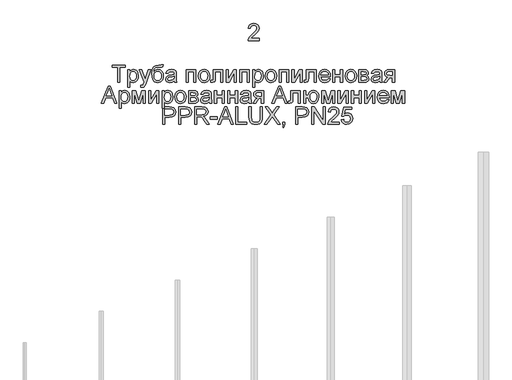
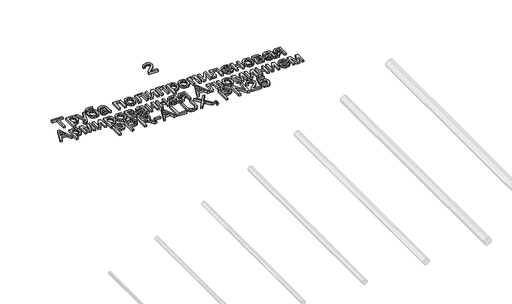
# One storey, part 2 of 2: 1 proxy.
"""IFC4 building model written with IfcOpenShell, lengths in millimetres."""

from ifc_helpers import new_model, si_unit, origin, origin_with_axes, place, context, project, spatial, polyline, outline, extrude, element, save

model = new_model("IFC4")

# Units and contexts
model_context = context("Model", 3, world=origin())
ifc_project = project(units=[si_unit("LENGTHUNIT", "METRE", prefix="MILLI")], contexts=[model_context])

# Site, building, storey
site = spatial("IfcSite", under=ifc_project)
building = spatial("IfcBuilding", under=site)
storey = spatial("IfcBuildingStorey", under=building, Name="Этаж 01", Elevation=0.0)

# Proxy
placement = place(None, origin())
element("IfcBuildingElementProxy", 1, Name="-", ObjectType="-", at=placement, inside=storey, context=model_context, shape_type="SweptSolid", body=[
    extrude(outline(polyline([(2739.4727171, 3996.7624846), (2739.4727171, 3977.9269265), (2640.5860368, 3977.9269265), (2642.6093878, 3990.9131609), (2654.0505178, 4010.9075473), (2677.6317537, 4032.7413438), (2710.1525221, 4064.1216779), (2716.2501662, 4074.9374086), (2718.2827142, 4085.4588337), (2716.3651293, 4094.8904083), (2710.6123746, 4102.7308933), (2701.7694111, 4108.0145985), (2690.5811999, 4109.7758336), (2678.8319687, 4108.0559852), (2669.7038967, 4102.8964402), (2663.8131863, 4094.7018688), (2661.7760397, 4083.8769411), (2642.9404816, 4086.2313859), (2647.5068168, 4104.4507417), (2657.3798499, 4117.7588728), (2672.0445459, 4125.898262), (2690.9858701, 4128.6113917), (2710.0651501, 4125.5947593), (2724.702255, 4116.5448623), (2734.014268, 4103.0251989), (2737.1182723, 4086.5992679), (2733.7705462, 4068.738597), (2722.6421158, 4050.2709208), (2695.6579715, 4024.4639989), (2673.989722, 4006.3458106), (2665.4916479, 3996.7624846), (2739.4727171, 3996.7624846)])), origin_with_axes(), (0.0, 0.0, 1.0), 20.0),
    extrude(outline(polyline([(1501.0347685, 3612.0024729), (1501.0347685, 3743.85138), (1451.5914284, 3743.85138), (1451.5914284, 3762.6869382), (1569.3136668, 3762.6869382), (1569.3136668, 3743.85138), (1519.8703267, 3743.85138), (1519.8703267, 3612.0024729), (1501.0347685, 3612.0024729)])), origin_with_axes(), (0.0, 0.0, 1.0), 20.0),
    extrude(outline(polyline([(1588.149225, 3569.6224671), (1588.149225, 3722.6613771), (1606.9847831, 3722.6613771), (1606.9847831, 3704.1937009), (1620.0078058, 3719.8102916), (1637.5925651, 3725.0158219), (1650.3304792, 3723.194806), (1661.4681066, 3717.7317584), (1670.5363978, 3708.9577728), (1677.0663032, 3697.203943), (1682.3270158, 3668.1780536), (1680.8416922, 3652.0694207), (1676.3857215, 3637.6622421), (1669.101658, 3625.6876832), (1659.132056, 3616.8769094), (1647.5207805, 3611.4552485), (1635.3116968, 3609.6480282), (1618.9225539, 3614.4856764), (1606.9847831, 3626.7177528), (1606.9847831, 3569.6224671), (1588.149225, 3569.6224671)]), holes=[polyline([(1606.9847831, 3666.4490082), (1609.0219297, 3649.5632247), (1615.1333693, 3637.7542126), (1624.1510767, 3630.8012429), (1634.9070266, 3628.4835863), (1645.8377204, 3630.8840163), (1655.085354, 3638.0853064), (1661.3899317, 3650.3265798), (1663.4914576, 3667.8469598), (1661.4405155, 3684.6407729), (1655.2876891, 3696.6153318), (1646.2837773, 3703.7890307), (1635.6795788, 3706.1802637), (1625.0339935, 3703.6372794), (1615.6851923, 3696.0083265), (1609.1598854, 3683.5325284), (1606.9847831, 3666.4490082)])]), origin_with_axes(), (0.0, 0.0, 1.0), 20.0),
    extrude(outline(polyline([(1703.5170187, 3569.6224671), (1701.1625739, 3587.7590495), (1710.7275058, 3586.1035805), (1719.6670383, 3588.1821138), (1725.14848, 3593.9762552), (1730.2988279, 3607.8454064), (1731.7703559, 3612.4071431), (1691.7447948, 3722.6613771), (1711.6104226, 3722.6613771), (1732.8372137, 3661.2250839), (1740.2316418, 3636.6505666), (1747.6260699, 3658.3556043), (1769.4414722, 3722.6613771), (1789.1599472, 3722.6613771), (1750.6427023, 3609.3537226), (1740.636312, 3584.7792053), (1729.7102167, 3571.4986653), (1715.0317251, 3567.2680223), (1703.5170187, 3569.6224671)])), origin_with_axes(), (0.0, 0.0, 1.0), 20.0),
    extrude(outline(polyline([(1882.4548211, 3765.0413829), (1898.9359345, 3765.0413829), (1894.0798922, 3750.3444972), (1884.4781721, 3745.0286024), (1861.411971, 3743.85138), (1830.3443365, 3739.5103725), (1823.2166229, 3733.8633838), (1818.4249599, 3725.6044331), (1814.396652, 3700.9931276), (1830.7122185, 3719.0193453), (1840.6312368, 3723.5167027), (1851.7366745, 3725.0158219), (1871.3355878, 3721.2036447), (1887.2372871, 3709.7671132), (1897.7771062, 3691.8282674), (1901.2903793, 3668.5091474), (1899.5475383, 3650.5289149), (1894.3190155, 3636.0987436), (1877.7827198, 3616.5458156), (1866.4887425, 3611.372475), (1851.7366745, 3609.6480282), (1834.7359278, 3611.8691157), (1821.9934152, 3618.5323784), (1812.6170229, 3628.6583303), (1805.7146369, 3641.2674857), (1801.4655999, 3660.2547951), (1800.0492542, 3689.5152093), (1803.6223081, 3725.6550168), (1814.3414697, 3747.6957469), (1832.4734536, 3758.9391403), (1858.2849741, 3762.6869382), (1879.2542478, 3763.1100025), (1882.4548211, 3765.0413829)]), holes=[polyline([(1882.4548211, 3669.0977586), (1880.4130761, 3683.9188045), (1874.2878408, 3695.7875973), (1864.4469975, 3703.5820971), (1851.2584279, 3706.1802637), (1837.5088384, 3703.4349443), (1827.3093101, 3695.1989862), (1820.9909368, 3682.3737001), (1818.8848124, 3665.860397), (1821.211666, 3649.8529317), (1828.1922268, 3638.1037005), (1838.5848932, 3630.8886149), (1851.1480633, 3628.4835863), (1863.7756128, 3631.2656939), (1873.772806, 3639.6120167), (1880.2843174, 3652.5476673), (1882.4548211, 3669.0977586)])]), origin_with_axes(), (0.0, 0.0, 1.0), 20.0),
    extrude(outline(polyline([(1995.4681701, 3626.1291416), (1977.202829, 3613.3636363), (1957.0245016, 3609.6480282), (1941.2837507, 3611.8829113), (1929.6724752, 3618.5875607), (1922.5125719, 3628.7686949), (1920.1259374, 3641.4330326), (1923.731181, 3656.3322534), (1933.2041424, 3667.147984), (1946.3927119, 3673.3284015), (1962.6898843, 3676.1610929), (1995.3578055, 3682.635816), (1995.4681701, 3686.8296708), (1994.171386, 3695.2357744), (1990.2810339, 3700.7356102), (1981.5806247, 3704.8191003), (1969.458913, 3706.1802637), (1950.4026256, 3702.5566261), (1941.3159404, 3689.6991503), (1922.4803822, 3692.0535951), (1930.6289684, 3710.4476949), (1947.0365054, 3721.2266373), (1971.8869342, 3725.0158219), (1994.714012, 3721.6680957), (2007.6082759, 3713.2619921), (2013.3840232, 3700.4780928), (2014.3037282, 3683.9969794), (2014.3037282, 3660.5628963), (2015.2602214, 3627.8397928), (2019.0126177, 3612.0024729), (2000.1770596, 3612.0024729), (1995.4681701, 3626.1291416)]), holes=[polyline([(1995.4681701, 3663.8002579), (1965.0811173, 3658.0245105), (1948.8759154, 3654.97109), (1941.5366696, 3650.004683), (1938.9614956, 3642.7574077), (1944.571696, 3632.5670765), (1961.0344153, 3628.4835863), (1980.0907027, 3632.9901408), (1992.3779613, 3643.8978419), (1995.3578055, 3658.4659689), (1995.4681701, 3663.8002579)])]), origin_with_axes(), (0.0, 0.0, 1.0), 20.0),
    extrude(outline(polyline([(2099.0637399, 3722.6613771), (2183.8237516, 3722.6613771), (2183.8237516, 3612.0024729), (2164.9881934, 3612.0024729), (2164.9881934, 3703.8258189), (2117.899298, 3703.8258189), (2117.899298, 3612.0024729), (2099.0637399, 3612.0024729), (2099.0637399, 3722.6613771)])), origin_with_axes(), (0.0, 0.0, 1.0), 20.0),
    extrude(outline(polyline([(2207.3681993, 3667.331925), (2211.4424924, 3694.0125667), (2223.6653717, 3712.7653514), (2238.7669276, 3721.9532043), (2256.8483276, 3725.0158219), (2276.6357804, 3721.2864181), (2292.4409107, 3710.098207), (2302.8013873, 3692.3341051), (2306.2548796, 3668.8770294), (2304.7281693, 3649.8483332), (2300.1480385, 3635.3629796), (2292.6478443, 3624.5150593), (2282.360944, 3616.3986628), (2270.1426632, 3611.3356868), (2256.8483276, 3609.6480282), (2236.8217515, 3613.3636363), (2221.0350154, 3624.5104608), (2210.7849033, 3642.6470431), (2207.3681993, 3667.331925)]), holes=[polyline([(2226.2037574, 3667.3687132), (2228.3834583, 3650.3219813), (2234.9225607, 3638.1772769), (2244.7634041, 3630.907009), (2256.8483276, 3628.4835863), (2268.8780689, 3630.9208045), (2278.7005181, 3638.2324592), (2285.2396206, 3650.5381119), (2287.4193214, 3667.9573244), (2285.225825, 3684.5074157), (2278.6453358, 3696.4865731), (2268.809091, 3703.7568411), (2256.8483276, 3706.1802637), (2244.7634041, 3703.7660381), (2234.9225607, 3696.5233613), (2228.3834583, 3684.4062481), (2226.2037574, 3667.3687132)])]), origin_with_axes(), (0.0, 0.0, 1.0), 20.0),
    extrude(outline(polyline([(2336.8626616, 3722.6613771), (2421.6226733, 3722.6613771), (2421.6226733, 3612.1128375), (2402.7871151, 3612.1128375), (2402.7871151, 3703.8258189), (2355.6982197, 3703.8258189), (2355.6982197, 3651.0347526), (2354.4290268, 3626.6809646), (2347.457663, 3616.3986628), (2330.9765497, 3612.0024729), (2315.6726587, 3612.9589661), (2315.6726587, 3630.8380311), (2324.0971563, 3630.8380311), (2332.6136245, 3631.9968594), (2336.016533, 3635.6756793), (2336.8626616, 3652.1016104), (2336.8626616, 3722.6613771)])), origin_with_axes(), (0.0, 0.0, 1.0), 20.0),
    extrude(outline(polyline([(2449.8760105, 3722.6613771), (2468.7115686, 3722.6613771), (2468.7115686, 3638.2692474), (2514.9911236, 3722.6613771), (2539.3449117, 3722.6613771), (2539.3449117, 3612.0024729), (2520.5093536, 3612.0024729), (2520.5093536, 3695.8795678), (2474.5241042, 3612.0024729), (2449.8760105, 3612.0024729), (2449.8760105, 3722.6613771)])), origin_with_axes(), (0.0, 0.0, 1.0), 20.0),
    extrude(outline(polyline([(2567.598249, 3722.6613771), (2652.3582606, 3722.6613771), (2652.3582606, 3612.0024729), (2633.5227025, 3612.0024729), (2633.5227025, 3703.8258189), (2586.4338071, 3703.8258189), (2586.4338071, 3612.0024729), (2567.598249, 3612.0024729), (2567.598249, 3722.6613771)])), origin_with_axes(), (0.0, 0.0, 1.0), 20.0),
    extrude(outline(polyline([(2680.6115979, 3569.6224671), (2680.6115979, 3722.6613771), (2699.447156, 3722.6613771), (2699.447156, 3704.1937009), (2712.4701787, 3719.8102916), (2730.054938, 3725.0158219), (2742.7928521, 3723.194806), (2753.9304795, 3717.7317584), (2762.9987707, 3708.9577728), (2769.5286761, 3697.203943), (2774.7893886, 3668.1780536), (2773.3040651, 3652.0694207), (2768.8480944, 3637.6622421), (2761.5640309, 3625.6876832), (2751.5944288, 3616.8769094), (2739.9831534, 3611.4552485), (2727.7740697, 3609.6480282), (2711.3849268, 3614.4856764), (2699.447156, 3626.7177528), (2699.447156, 3569.6224671), (2680.6115979, 3569.6224671)]), holes=[polyline([(2699.447156, 3666.4490082), (2701.4843026, 3649.5632247), (2707.5957422, 3637.7542126), (2716.6134496, 3630.8012429), (2727.3693995, 3628.4835863), (2738.3000932, 3630.8840163), (2747.5477269, 3638.0853064), (2753.8523046, 3650.3265798), (2755.9538305, 3667.8469598), (2753.9028884, 3684.6407729), (2747.750062, 3696.6153318), (2738.7461502, 3703.7890307), (2728.1419516, 3706.1802637), (2717.4963664, 3703.6372794), (2708.1475652, 3696.0083265), (2701.6222583, 3683.5325284), (2699.447156, 3666.4490082)])]), origin_with_axes(), (0.0, 0.0, 1.0), 20.0),
    extrude(outline(polyline([(2791.270502, 3667.331925), (2795.3447951, 3694.0125667), (2807.5676744, 3712.7653514), (2822.6692303, 3721.9532043), (2840.7506304, 3725.0158219), (2860.5380832, 3721.2864181), (2876.3432134, 3710.098207), (2886.7036901, 3692.3341051), (2890.1571823, 3668.8770294), (2888.630472, 3649.8483332), (2884.0503412, 3635.3629796), (2876.550147, 3624.5150593), (2866.2632467, 3616.3986628), (2854.044966, 3611.3356868), (2840.7506304, 3609.6480282), (2820.7240543, 3613.3636363), (2804.9373181, 3624.5104608), (2794.6872061, 3642.6470431), (2791.270502, 3667.331925)]), holes=[polyline([(2810.1060602, 3667.3687132), (2812.285761, 3650.3219813), (2818.8248635, 3638.1772769), (2828.6657068, 3630.907009), (2840.7506304, 3628.4835863), (2852.7803716, 3630.9208045), (2862.6028209, 3638.2324592), (2869.1419233, 3650.5381119), (2871.3216242, 3667.9573244), (2869.1281278, 3684.5074157), (2862.5476386, 3696.4865731), (2852.7113937, 3703.7568411), (2840.7506304, 3706.1802637), (2828.6657068, 3703.7660381), (2818.8248635, 3696.5233613), (2812.285761, 3684.4062481), (2810.1060602, 3667.3687132)])]), origin_with_axes(), (0.0, 0.0, 1.0), 20.0),
    extrude(outline(polyline([(2911.3471852, 3722.6613771), (2996.1071969, 3722.6613771), (2996.1071969, 3612.0024729), (2977.2716388, 3612.0024729), (2977.2716388, 3703.8258189), (2930.1827434, 3703.8258189), (2930.1827434, 3612.0024729), (2911.3471852, 3612.0024729), (2911.3471852, 3722.6613771)])), origin_with_axes(), (0.0, 0.0, 1.0), 20.0),
    extrude(outline(polyline([(3024.3605342, 3722.6613771), (3043.1960923, 3722.6613771), (3043.1960923, 3638.2692474), (3089.4756473, 3722.6613771), (3113.8294354, 3722.6613771), (3113.8294354, 3612.0024729), (3094.9938772, 3612.0024729), (3094.9938772, 3695.8795678), (3049.0086278, 3612.0024729), (3024.3605342, 3612.0024729), (3024.3605342, 3722.6613771)])), origin_with_axes(), (0.0, 0.0, 1.0), 20.0),
    extrude(outline(polyline([(3151.5005517, 3722.6613771), (3236.2605634, 3722.6613771), (3236.2605634, 3612.1128375), (3217.4250052, 3612.1128375), (3217.4250052, 3703.8258189), (3170.3361099, 3703.8258189), (3170.3361099, 3651.0347526), (3169.066917, 3626.6809646), (3162.0955532, 3616.3986628), (3145.6144398, 3612.0024729), (3130.3105488, 3612.9589661), (3130.3105488, 3630.8380311), (3138.7350465, 3630.8380311), (3147.2515147, 3631.9968594), (3150.6544231, 3635.6756793), (3151.5005517, 3652.1016104), (3151.5005517, 3722.6613771)])), origin_with_axes(), (0.0, 0.0, 1.0), 20.0),
    extrude(outline(polyline([(3341.9898488, 3644.9646997), (3360.457525, 3642.6102549), (3353.8034594, 3628.6951185), (3343.1854653, 3618.2932551), (3328.842666, 3611.8093349), (3311.0141848, 3609.6480282), (3288.9136739, 3613.3774319), (3271.9083287, 3624.5656431), (3261.0650069, 3642.4860948), (3257.4505663, 3666.41222), (3261.1017951, 3691.1430872), (3272.0554815, 3709.6383545), (3288.8309005, 3721.171455), (3309.947327, 3725.0158219), (3330.4061645, 3721.1806521), (3346.7539206, 3709.6751427), (3357.4730823, 3691.2166636), (3361.0461362, 3666.5225846), (3360.9357716, 3661.4458131), (3276.2861245, 3661.4458131), (3279.5464786, 3647.3467356), (3287.1202492, 3636.9816604), (3298.050943, 3630.6081049), (3311.3820668, 3628.4835863), (3329.849743, 3632.4199237), (3341.9898488, 3644.9646997)]), holes=[polyline([(3276.2861245, 3680.2813712), (3342.210578, 3680.2813712), (3339.6629952, 3690.2325792), (3334.6689971, 3697.3510958), (3323.6877195, 3703.9729717), (3309.8737506, 3706.1802637), (3297.1772233, 3704.4190287), (3286.6787908, 3699.1353235), (3279.3809317, 3690.8993653), (3276.2861245, 3680.2813712)])]), origin_with_axes(), (0.0, 0.0, 1.0), 20.0),
    extrude(outline(polyline([(3379.8816943, 3722.6613771), (3398.7172525, 3722.6613771), (3398.7172525, 3680.2813712), (3448.1605926, 3680.2813712), (3448.1605926, 3722.6613771), (3466.9961508, 3722.6613771), (3466.9961508, 3612.0024729), (3448.1605926, 3612.0024729), (3448.1605926, 3661.4458131), (3398.7172525, 3661.4458131), (3398.7172525, 3612.0024729), (3379.8816943, 3612.0024729), (3379.8816943, 3722.6613771)])), origin_with_axes(), (0.0, 0.0, 1.0), 20.0),
    extrude(outline(polyline([(3490.5405985, 3667.331925), (3494.6148915, 3694.0125667), (3506.8377708, 3712.7653514), (3521.9393267, 3721.9532043), (3540.0207268, 3725.0158219), (3559.8081796, 3721.2864181), (3575.6133098, 3710.098207), (3585.9737865, 3692.3341051), (3589.4272788, 3668.8770294), (3587.9005685, 3649.8483332), (3583.3204376, 3635.3629796), (3575.8202435, 3624.5150593), (3565.5333432, 3616.3986628), (3553.3150624, 3611.3356868), (3540.0207268, 3609.6480282), (3519.9941507, 3613.3636363), (3504.2074146, 3624.5104608), (3493.9573025, 3642.6470431), (3490.5405985, 3667.331925)]), holes=[polyline([(3509.3761566, 3667.3687132), (3511.5558574, 3650.3219813), (3518.0949599, 3638.1772769), (3527.9358033, 3630.907009), (3540.0207268, 3628.4835863), (3552.050468, 3630.9208045), (3561.8729173, 3638.2324592), (3568.4120198, 3650.5381119), (3570.5917206, 3667.9573244), (3568.3982242, 3684.5074157), (3561.817735, 3696.4865731), (3551.9814902, 3703.7568411), (3540.0207268, 3706.1802637), (3527.9358033, 3703.7660381), (3518.0949599, 3696.5233613), (3511.5558574, 3684.4062481), (3509.3761566, 3667.3687132)])]), origin_with_axes(), (0.0, 0.0, 1.0), 20.0),
    extrude(outline(polyline([(3610.6172817, 3722.6613771), (3652.1143707, 3722.6613771), (3674.8678721, 3720.1413854), (3687.6701656, 3710.9075473), (3693.0228486, 3694.8127101), (3689.785487, 3681.7345051), (3680.0366142, 3672.4086966), (3692.6917548, 3662.1999712), (3697.7317381, 3644.4496649), (3694.5403618, 3630.0930701), (3686.9527957, 3619.9855122), (3674.9414485, 3613.9982328), (3658.4787293, 3612.0024729), (3610.6172817, 3612.0024729), (3610.6172817, 3722.6613771)]), holes=[polyline([(3629.4528398, 3680.2813712), (3648.0676688, 3680.2813712), (3663.4267421, 3681.2378644), (3670.8947466, 3685.0638372), (3674.1872904, 3691.9800187), (3672.7433536, 3697.5994162), (3668.4115431, 3701.2138568), (3648.65628, 3703.8258189), (3629.4528398, 3703.8258189), (3629.4528398, 3680.2813712)]), polyline([(3629.4528398, 3630.8380311), (3652.5558291, 3630.8380311), (3673.0468563, 3634.2409396), (3677.2866963, 3638.8808512), (3678.89618, 3645.9947693), (3675.6772125, 3655.0630605), (3667.289503, 3660.3421671), (3650.7164192, 3661.4458131), (3629.4528398, 3661.4458131), (3629.4528398, 3630.8380311)])]), origin_with_axes(), (0.0, 0.0, 1.0), 20.0),
    extrude(outline(polyline([(3791.9095289, 3626.1291416), (3773.6441878, 3613.3636363), (3753.4658604, 3609.6480282), (3737.7251095, 3611.8829113), (3726.1138341, 3618.5875607), (3718.9539307, 3628.7686949), (3716.5672963, 3641.4330326), (3720.1725398, 3656.3322534), (3729.6455012, 3667.147984), (3742.8340707, 3673.3284015), (3759.1312431, 3676.1610929), (3791.7991643, 3682.635816), (3791.9095289, 3686.8296708), (3790.6127449, 3695.2357744), (3786.7223928, 3700.7356102), (3778.0219836, 3704.8191003), (3765.9002718, 3706.1802637), (3746.8439845, 3702.5566261), (3737.7572992, 3689.6991503), (3718.9217411, 3692.0535951), (3727.0703273, 3710.4476949), (3743.4778642, 3721.2266373), (3768.328293, 3725.0158219), (3791.1553708, 3721.6680957), (3804.0496347, 3713.2619921), (3809.8253821, 3700.4780928), (3810.7450871, 3683.9969794), (3810.7450871, 3660.5628963), (3811.7015802, 3627.8397928), (3815.4539766, 3612.0024729), (3796.6184184, 3612.0024729), (3791.9095289, 3626.1291416)]), holes=[polyline([(3791.9095289, 3663.8002579), (3761.5224761, 3658.0245105), (3745.3172742, 3654.97109), (3737.9780284, 3650.004683), (3735.4028544, 3642.7574077), (3741.0130549, 3632.5670765), (3757.4757742, 3628.4835863), (3776.5320615, 3632.9901408), (3788.8193201, 3643.8978419), (3791.7991643, 3658.4659689), (3791.9095289, 3663.8002579)])]), origin_with_axes(), (0.0, 0.0, 1.0), 20.0),
    extrude(outline(polyline([(3921.4039912, 3722.6613771), (3921.4039912, 3612.0024729), (3902.5684331, 3612.0024729), (3902.5684331, 3654.3824788), (3892.3045254, 3654.3824788), (3878.3250096, 3651.9912458), (3865.1916223, 3635.9148026), (3850.1820369, 3612.0024729), (3828.4034228, 3612.0024729), (3847.3125574, 3642.2423729), (3855.6634787, 3653.0948918), (3863.3522124, 3657.9141459), (3850.4763425, 3661.8596803), (3841.4264455, 3669.355276), (3836.0737624, 3679.3248781), (3834.2895347, 3690.6924317), (3836.726753, 3703.5866956), (3844.0384076, 3713.795421), (3855.9669813, 3720.4448881), (3872.2549566, 3722.6613771), (3921.4039912, 3722.6613771)]), holes=[polyline([(3902.5684331, 3703.8258189), (3877.7363984, 3703.8258189), (3864.9111123, 3702.7359685), (3857.6316473, 3699.4664173), (3853.1250929, 3689.2576919), (3854.7851604, 3682.0793945), (3859.7653629, 3677.099192), (3883.2914165, 3673.2180369), (3902.5684331, 3673.2180369), (3902.5684331, 3703.8258189)])]), origin_with_axes(), (0.0, 0.0, 1.0), 20.0),
    extrude(outline(polyline([(1358.7012246, 3429.0402462), (1418.8499308, 3579.7247114), (1434.8895858, 3579.7247114), (1495.038292, 3429.0402462), (1475.1358761, 3429.0402462), (1457.8822105, 3476.1291416), (1395.8205179, 3476.1291416), (1378.6036405, 3429.0402462), (1358.7012246, 3429.0402462)]), holes=[polyline([(1402.7366994, 3494.9646997), (1451.0028172, 3494.9646997), (1437.4279716, 3532.0104166), (1426.8697583, 3560.8891532), (1417.4887674, 3535.2477782), (1402.7366994, 3494.9646997)])]), origin_with_axes(), (0.0, 0.0, 1.0), 20.0),
    extrude(outline(polyline([(1512.8069924, 3386.6602403), (1512.8069924, 3539.6991503), (1531.6425505, 3539.6991503), (1531.6425505, 3521.2314742), (1544.6655732, 3536.8480649), (1562.2503325, 3542.0535951), (1574.9882466, 3540.2325792), (1586.125874, 3534.7695316), (1595.1941652, 3525.995546), (1601.7240706, 3514.2417163), (1606.9847831, 3485.2158268), (1605.4994596, 3469.107194), (1601.0434889, 3454.7000153), (1593.7594254, 3442.7254564), (1583.7898234, 3433.9146826), (1572.1785479, 3428.4930217), (1559.9694642, 3426.6858014), (1543.5803213, 3431.5234496), (1531.6425505, 3443.755526), (1531.6425505, 3386.6602403), (1512.8069924, 3386.6602403)]), holes=[polyline([(1531.6425505, 3483.4867815), (1533.6796971, 3466.6009979), (1539.7911367, 3454.7919858), (1548.8088441, 3447.8390161), (1559.564794, 3445.5213596), (1570.4954878, 3447.9217896), (1579.7431214, 3455.1230796), (1586.0476991, 3467.364353), (1588.149225, 3484.884733), (1586.0982829, 3501.6785461), (1579.9454565, 3513.6531051), (1570.9415447, 3520.826804), (1560.3373462, 3523.2180369), (1549.6917609, 3520.6750526), (1540.3429597, 3513.0460998), (1533.8176528, 3500.5703016), (1531.6425505, 3483.4867815)])]), origin_with_axes(), (0.0, 0.0, 1.0), 20.0),
    extrude(outline(polyline([(1628.1747861, 3539.6991503), (1660.5851898, 3539.6991503), (1685.5643773, 3451.1131659), (1712.4933394, 3539.6991503), (1743.5425798, 3539.6991503), (1743.5425798, 3429.0402462), (1724.7070216, 3429.0402462), (1724.7070216, 3518.1412654), (1697.6309068, 3429.0402462), (1672.9092367, 3429.0402462), (1647.0103442, 3522.4086966), (1647.0103442, 3429.0402462), (1628.1747861, 3429.0402462), (1628.1747861, 3539.6991503)])), origin_with_axes(), (0.0, 0.0, 1.0), 20.0),
    extrude(outline(polyline([(1771.795917, 3539.6991503), (1790.6314751, 3539.6991503), (1790.6314751, 3455.3070206), (1836.9110301, 3539.6991503), (1861.2648182, 3539.6991503), (1861.2648182, 3429.0402462), (1842.4292601, 3429.0402462), (1842.4292601, 3512.9173411), (1796.4440107, 3429.0402462), (1771.795917, 3429.0402462), (1771.795917, 3539.6991503)])), origin_with_axes(), (0.0, 0.0, 1.0), 20.0),
    extrude(outline(polyline([(1889.5181554, 3386.6602403), (1889.5181554, 3539.6991503), (1908.3537136, 3539.6991503), (1908.3537136, 3521.2314742), (1921.3767362, 3536.8480649), (1938.9614956, 3542.0535951), (1951.6994097, 3540.2325792), (1962.8370371, 3534.7695316), (1971.9053283, 3525.995546), (1978.4352337, 3514.2417163), (1983.6959462, 3485.2158268), (1982.2106227, 3469.107194), (1977.754652, 3454.7000153), (1970.4705885, 3442.7254564), (1960.5009864, 3433.9146826), (1948.8897109, 3428.4930217), (1936.6806272, 3426.6858014), (1920.2914843, 3431.5234496), (1908.3537136, 3443.755526), (1908.3537136, 3386.6602403), (1889.5181554, 3386.6602403)]), holes=[polyline([(1908.3537136, 3483.4867815), (1910.3908601, 3466.6009979), (1916.5022998, 3454.7919858), (1925.5200072, 3447.8390161), (1936.275957, 3445.5213596), (1947.2066508, 3447.9217896), (1956.4542845, 3455.1230796), (1962.7588622, 3467.364353), (1964.8603881, 3484.884733), (1962.8094459, 3501.6785461), (1956.6566196, 3513.6531051), (1947.6527077, 3520.826804), (1937.0485092, 3523.2180369), (1926.402924, 3520.6750526), (1917.0541228, 3513.0460998), (1910.5288159, 3500.5703016), (1908.3537136, 3483.4867815)])]), origin_with_axes(), (0.0, 0.0, 1.0), 20.0),
    extrude(outline(polyline([(2000.1770596, 3484.3696983), (2004.2513527, 3511.05034), (2016.474232, 3529.8031247), (2031.5757879, 3538.9909775), (2049.6571879, 3542.0535951), (2069.4446408, 3538.3241914), (2085.249771, 3527.1359802), (2095.6102477, 3509.3718783), (2099.0637399, 3485.9148026), (2097.5370296, 3466.8861064), (2092.9568988, 3452.4007529), (2085.4567046, 3441.5528325), (2075.1698043, 3433.436436), (2062.9515235, 3428.3734601), (2049.6571879, 3426.6858014), (2029.6306118, 3430.4014096), (2013.8438757, 3441.548234), (2003.5937636, 3459.6848164), (2000.1770596, 3484.3696983)]), holes=[polyline([(2019.0126177, 3484.4064865), (2021.1923186, 3467.3597545), (2027.731421, 3455.2150501), (2037.5722644, 3447.9447822), (2049.6571879, 3445.5213596), (2061.6869292, 3447.9585778), (2071.5093785, 3455.2702324), (2078.0484809, 3467.5758852), (2080.2281817, 3484.9950976), (2078.0346853, 3501.5451889), (2071.4541962, 3513.5243464), (2061.6179513, 3520.7946143), (2049.6571879, 3523.2180369), (2037.5722644, 3520.8038113), (2027.731421, 3513.5611346), (2021.1923186, 3501.4440214), (2019.0126177, 3484.4064865)])]), origin_with_axes(), (0.0, 0.0, 1.0), 20.0),
    extrude(outline(polyline([(2120.2537428, 3539.6991503), (2161.7508319, 3539.6991503), (2184.5043333, 3537.1791587), (2197.3066267, 3527.9453206), (2202.6593097, 3511.8504833), (2199.4219482, 3498.7722784), (2189.6730753, 3489.4464698), (2202.3282159, 3479.2377444), (2207.3681993, 3461.4874382), (2204.176823, 3447.1308433), (2196.5892568, 3437.0232855), (2184.5779097, 3431.036006), (2168.1151904, 3429.0402462), (2120.2537428, 3429.0402462), (2120.2537428, 3539.6991503)]), holes=[polyline([(2139.089301, 3497.3191445), (2157.7041299, 3497.3191445), (2173.0632032, 3498.2756377), (2180.5312077, 3502.1016104), (2183.8237516, 3509.0177919), (2182.3798148, 3514.6371894), (2178.0480043, 3518.25163), (2158.2927411, 3520.8635922), (2139.089301, 3520.8635922), (2139.089301, 3497.3191445)]), polyline([(2139.089301, 3447.8758043), (2162.1922903, 3447.8758043), (2182.6833174, 3451.2787128), (2186.9231574, 3455.9186244), (2188.5326411, 3463.0325425), (2185.3136737, 3472.1008337), (2176.9259642, 3477.3799403), (2160.3528803, 3478.4835863), (2139.089301, 3478.4835863), (2139.089301, 3447.8758043)])]), origin_with_axes(), (0.0, 0.0, 1.0), 20.0),
    extrude(outline(polyline([(2301.54599, 3443.1669148), (2283.280649, 3430.4014096), (2263.1023215, 3426.6858014), (2247.3615707, 3428.9206845), (2235.7502952, 3435.6253339), (2228.5903919, 3445.8064681), (2226.2037574, 3458.4708058), (2229.809001, 3473.3700266), (2239.2819624, 3484.1857573), (2252.4705319, 3490.3661748), (2268.7677043, 3493.1988661), (2301.4356254, 3499.6735893), (2301.54599, 3503.867444), (2300.249206, 3512.2735476), (2296.3588539, 3517.7733834), (2287.6584447, 3521.8568736), (2275.536733, 3523.2180369), (2256.4804456, 3519.5943993), (2247.3937604, 3506.7369236), (2228.5582022, 3509.0913683), (2236.7067884, 3527.4854681), (2253.1143254, 3538.2644105), (2277.9647542, 3542.0535951), (2300.791832, 3538.7058689), (2313.6860959, 3530.2997653), (2319.4618432, 3517.515866), (2320.3815482, 3501.0347526), (2320.3815482, 3477.6006695), (2321.3380414, 3444.8775661), (2325.0904377, 3429.0402462), (2306.2548796, 3429.0402462), (2301.54599, 3443.1669148)]), holes=[polyline([(2301.54599, 3480.8380311), (2271.1589372, 3475.0622838), (2254.9537354, 3472.0088632), (2247.6144895, 3467.0424563), (2245.0393156, 3459.795181), (2250.649516, 3449.6048497), (2267.1122353, 3445.5213596), (2286.1685226, 3450.027914), (2298.4557813, 3460.9356152), (2301.4356254, 3475.5037422), (2301.54599, 3480.8380311)])]), origin_with_axes(), (0.0, 0.0, 1.0), 20.0),
    extrude(outline(polyline([(2346.2804407, 3539.6991503), (2365.1159988, 3539.6991503), (2365.1159988, 3497.3191445), (2414.559339, 3497.3191445), (2414.559339, 3539.6991503), (2433.3948971, 3539.6991503), (2433.3948971, 3429.0402462), (2414.559339, 3429.0402462), (2414.559339, 3478.4835863), (2365.1159988, 3478.4835863), (2365.1159988, 3429.0402462), (2346.2804407, 3429.0402462), (2346.2804407, 3539.6991503)])), origin_with_axes(), (0.0, 0.0, 1.0), 20.0),
    extrude(outline(polyline([(2461.6482343, 3539.6991503), (2480.4837925, 3539.6991503), (2480.4837925, 3497.3191445), (2529.9271326, 3497.3191445), (2529.9271326, 3539.6991503), (2548.7626908, 3539.6991503), (2548.7626908, 3429.0402462), (2529.9271326, 3429.0402462), (2529.9271326, 3478.4835863), (2480.4837925, 3478.4835863), (2480.4837925, 3429.0402462), (2461.6482343, 3429.0402462), (2461.6482343, 3539.6991503)])), origin_with_axes(), (0.0, 0.0, 1.0), 20.0),
    extrude(outline(polyline([(2647.6493711, 3443.1669148), (2629.38403, 3430.4014096), (2609.2057026, 3426.6858014), (2593.4649517, 3428.9206845), (2581.8536763, 3435.6253339), (2574.6937729, 3445.8064681), (2572.3071385, 3458.4708058), (2575.912382, 3473.3700266), (2585.3853434, 3484.1857573), (2598.5739129, 3490.3661748), (2614.8710853, 3493.1988661), (2647.5390065, 3499.6735893), (2647.6493711, 3503.867444), (2646.3525871, 3512.2735476), (2642.462235, 3517.7733834), (2633.7618258, 3521.8568736), (2621.640114, 3523.2180369), (2602.5838267, 3519.5943993), (2593.4971414, 3506.7369236), (2574.6615833, 3509.0913683), (2582.8101695, 3527.4854681), (2599.2177064, 3538.2644105), (2624.0681352, 3542.0535951), (2646.895213, 3538.7058689), (2659.7894769, 3530.2997653), (2665.5652243, 3517.515866), (2666.4849293, 3501.0347526), (2666.4849293, 3477.6006695), (2667.4414224, 3444.8775661), (2671.1938188, 3429.0402462), (2652.3582606, 3429.0402462), (2647.6493711, 3443.1669148)]), holes=[polyline([(2647.6493711, 3480.8380311), (2617.2623183, 3475.0622838), (2601.0571164, 3472.0088632), (2593.7178706, 3467.0424563), (2591.1426966, 3459.795181), (2596.7528971, 3449.6048497), (2613.2156164, 3445.5213596), (2632.2719037, 3450.027914), (2644.5591623, 3460.9356152), (2647.5390065, 3475.5037422), (2647.6493711, 3480.8380311)])]), origin_with_axes(), (0.0, 0.0, 1.0), 20.0),
    extrude(outline(polyline([(2777.1438334, 3539.6991503), (2777.1438334, 3429.0402462), (2758.3082753, 3429.0402462), (2758.3082753, 3471.420252), (2748.0443676, 3471.420252), (2734.0648518, 3469.0290191), (2720.9314645, 3452.9525759), (2705.9218791, 3429.0402462), (2684.143265, 3429.0402462), (2703.0523996, 3459.2801462), (2711.4033209, 3470.132665), (2719.0920546, 3474.9519192), (2706.2161847, 3478.8974536), (2697.1662877, 3486.3930492), (2691.8136046, 3496.3626513), (2690.0293769, 3507.7302049), (2692.4665952, 3520.6244689), (2699.7782498, 3530.8331942), (2711.7068235, 3537.4826613), (2727.9947989, 3539.6991503), (2777.1438334, 3539.6991503)]), holes=[polyline([(2758.3082753, 3520.8635922), (2733.4762406, 3520.8635922), (2720.6509545, 3519.7737418), (2713.3714895, 3516.5041905), (2708.8649351, 3506.2954652), (2710.5250026, 3499.1171677), (2715.5052051, 3494.1369652), (2739.0312587, 3490.2558102), (2758.3082753, 3490.2558102), (2758.3082753, 3520.8635922)])]), origin_with_axes(), (0.0, 0.0, 1.0), 20.0),
    extrude(outline(polyline([(2849.0647635, 3429.0402462), (2909.2134697, 3579.7247114), (2925.2531247, 3579.7247114), (2985.4018309, 3429.0402462), (2965.4994149, 3429.0402462), (2948.2457494, 3476.1291416), (2886.1840568, 3476.1291416), (2868.9671794, 3429.0402462), (2849.0647635, 3429.0402462)]), holes=[polyline([(2893.1002383, 3494.9646997), (2941.3663561, 3494.9646997), (2927.7915104, 3532.0104166), (2917.2332972, 3560.8891532), (2907.8523063, 3535.2477782), (2893.1002383, 3494.9646997)])]), origin_with_axes(), (0.0, 0.0, 1.0), 20.0),
    extrude(outline(polyline([(3012.5883103, 3539.6991503), (3097.348322, 3539.6991503), (3097.348322, 3429.1506108), (3078.5127639, 3429.1506108), (3078.5127639, 3520.8635922), (3031.4238685, 3520.8635922), (3031.4238685, 3468.0725259), (3030.1546756, 3443.7187378), (3023.1833118, 3433.436436), (3006.7021984, 3429.0402462), (2991.3983074, 3429.9967394), (2991.3983074, 3447.8758043), (2999.8228051, 3447.8758043), (3008.3392733, 3449.0346326), (3011.7421817, 3452.7134526), (3012.5883103, 3469.1393837), (3012.5883103, 3539.6991503)])), origin_with_axes(), (0.0, 0.0, 1.0), 20.0),
    extrude(outline(polyline([(3125.6016592, 3539.6991503), (3144.4372174, 3539.6991503), (3144.4372174, 3497.3191445), (3165.6272203, 3497.3191445), (3170.5154523, 3516.5225846), (3180.2505296, 3530.5756768), (3194.2162499, 3539.1841155), (3211.7964107, 3542.0535951), (3226.5714713, 3540.3659364), (3237.8608501, 3535.3029605), (3253.6061995, 3516.7065256), (3258.2553082, 3502.8005862), (3259.8050111, 3484.7743684), (3256.5998392, 3459.6480282), (3246.9843235, 3441.4378694), (3231.8781691, 3430.3738184), (3212.2010809, 3426.6858014), (3193.8115797, 3430.1438922), (3179.4779774, 3440.5181644), (3169.8624618, 3456.9257014), (3165.6272203, 3478.4835863), (3144.4372174, 3478.4835863), (3144.4372174, 3429.0402462), (3125.6016592, 3429.0402462), (3125.6016592, 3539.6991503)]), holes=[polyline([(3213.0104213, 3523.2180369), (3201.0036727, 3520.7808187), (3191.9859653, 3513.4691641), (3186.3435752, 3501.7613196), (3184.4627785, 3486.1355318), (3186.3573707, 3467.9299716), (3192.0411476, 3455.3254147), (3200.8979066, 3447.9723734), (3212.3114455, 3445.5213596), (3223.7571741, 3447.7884324), (3232.9312313, 3454.5896507), (3238.9598975, 3466.4400495), (3240.9694529, 3483.8546635), (3239.2312105, 3501.0761394), (3234.0164832, 3513.3771936), (3225.2884829, 3520.7578261), (3213.0104213, 3523.2180369)])]), origin_with_axes(), (0.0, 0.0, 1.0), 20.0),
    extrude(outline(polyline([(3283.3494588, 3539.6991503), (3315.7598625, 3539.6991503), (3340.73905, 3451.1131659), (3367.6680121, 3539.6991503), (3398.7172525, 3539.6991503), (3398.7172525, 3429.0402462), (3379.8816943, 3429.0402462), (3379.8816943, 3518.1412654), (3352.8055795, 3429.0402462), (3328.0839094, 3429.0402462), (3302.1850169, 3522.4086966), (3302.1850169, 3429.0402462), (3283.3494588, 3429.0402462), (3283.3494588, 3539.6991503)])), origin_with_axes(), (0.0, 0.0, 1.0), 20.0),
    extrude(outline(polyline([(3426.9705897, 3539.6991503), (3445.8061478, 3539.6991503), (3445.8061478, 3455.3070206), (3492.0857028, 3539.6991503), (3516.4394909, 3539.6991503), (3516.4394909, 3429.0402462), (3497.6039328, 3429.0402462), (3497.6039328, 3512.9173411), (3451.6186834, 3429.0402462), (3426.9705897, 3429.0402462), (3426.9705897, 3539.6991503)])), origin_with_axes(), (0.0, 0.0, 1.0), 20.0),
    extrude(outline(polyline([(3544.6928281, 3539.6991503), (3563.5283863, 3539.6991503), (3563.5283863, 3497.3191445), (3612.9717264, 3497.3191445), (3612.9717264, 3539.6991503), (3631.8072846, 3539.6991503), (3631.8072846, 3429.0402462), (3612.9717264, 3429.0402462), (3612.9717264, 3478.4835863), (3563.5283863, 3478.4835863), (3563.5283863, 3429.0402462), (3544.6928281, 3429.0402462), (3544.6928281, 3539.6991503)])), origin_with_axes(), (0.0, 0.0, 1.0), 20.0),
    extrude(outline(polyline([(3660.0606218, 3539.6991503), (3678.89618, 3539.6991503), (3678.89618, 3455.3070206), (3725.175735, 3539.6991503), (3749.5295231, 3539.6991503), (3749.5295231, 3429.0402462), (3730.6939649, 3429.0402462), (3730.6939649, 3512.9173411), (3684.7087155, 3429.0402462), (3660.0606218, 3429.0402462), (3660.0606218, 3539.6991503)])), origin_with_axes(), (0.0, 0.0, 1.0), 20.0),
    extrude(outline(polyline([(3855.2588085, 3462.0024729), (3873.7264846, 3459.6480282), (3867.072419, 3445.7328917), (3856.454425, 3435.3310283), (3842.1116257, 3428.8471081), (3824.2831445, 3426.6858014), (3802.1826336, 3430.4152051), (3785.1772884, 3441.6034163), (3774.3339666, 3459.523868), (3770.719526, 3483.4499933), (3774.3707548, 3508.1808604), (3785.3244412, 3526.6761277), (3802.0998602, 3538.2092282), (3823.2162867, 3542.0535951), (3843.6751241, 3538.2184253), (3860.0228803, 3526.7129159), (3870.7420419, 3508.2544368), (3874.3150958, 3483.5603579), (3874.2047312, 3478.4835863), (3789.5550841, 3478.4835863), (3792.8154383, 3464.3845089), (3800.3892089, 3454.0194336), (3811.3199027, 3447.6458781), (3824.6510265, 3445.5213596), (3843.1187026, 3449.4576969), (3855.2588085, 3462.0024729)]), holes=[polyline([(3789.5550841, 3497.3191445), (3855.4795377, 3497.3191445), (3852.9319549, 3507.2703525), (3847.9379568, 3514.3888691), (3836.9566792, 3521.010745), (3823.1427103, 3523.2180369), (3810.4461829, 3521.4568019), (3799.9477505, 3516.1730967), (3792.6498914, 3507.9371386), (3789.5550841, 3497.3191445)])]), origin_with_axes(), (0.0, 0.0, 1.0), 20.0),
    extrude(outline(polyline([(3893.150654, 3539.6991503), (3925.5610577, 3539.6991503), (3950.5402452, 3451.1131659), (3977.4692073, 3539.6991503), (4008.5184477, 3539.6991503), (4008.5184477, 3429.0402462), (3989.6828895, 3429.0402462), (3989.6828895, 3518.1412654), (3962.6067747, 3429.0402462), (3937.8851046, 3429.0402462), (3911.9862121, 3522.4086966), (3911.9862121, 3429.0402462), (3893.150654, 3429.0402462), (3893.150654, 3539.6991503)])), origin_with_axes(), (0.0, 0.0, 1.0), 20.0),
    extrude(outline(polyline([(1895.4042674, 3246.0780194), (1895.4042674, 3396.7624846), (1951.2487542, 3396.7624846), (1973.7631323, 3395.3277449), (1992.0652616, 3388.2828046), (2003.9294559, 3373.7146776), (2008.4176163, 3353.1684682), (2005.3871883, 3335.4089649), (1996.2959045, 3320.6109116), (1979.2951578, 3310.6229155), (1952.5363412, 3307.2935834), (1914.2398255, 3307.2935834), (1914.2398255, 3246.0780194), (1895.4042674, 3246.0780194)]), holes=[polyline([(1914.2398255, 3326.1291416), (1953.6399872, 3326.1291416), (1970.3418298, 3327.8581869), (1981.3782896, 3333.0453231), (1987.531116, 3341.3686532), (1989.5820581, 3352.5062806), (1984.7444099, 3368.1044772), (1972.034087, 3376.6393395), (1953.1985288, 3377.9269265), (1914.2398255, 3377.9269265), (1914.2398255, 3326.1291416)])]), origin_with_axes(), (0.0, 0.0, 1.0), 20.0),
    extrude(outline(polyline([(2034.3165087, 3246.0780194), (2034.3165087, 3396.7624846), (2090.1609956, 3396.7624846), (2112.6753737, 3395.3277449), (2130.977503, 3388.2828046), (2142.8416973, 3373.7146776), (2147.3298577, 3353.1684682), (2144.2994297, 3335.4089649), (2135.2081459, 3320.6109116), (2118.2073992, 3310.6229155), (2091.4485826, 3307.2935834), (2053.1520669, 3307.2935834), (2053.1520669, 3246.0780194), (2034.3165087, 3246.0780194)]), holes=[polyline([(2053.1520669, 3326.1291416), (2092.5522286, 3326.1291416), (2109.2540712, 3327.8581869), (2120.290531, 3333.0453231), (2126.4433574, 3341.3686532), (2128.4942995, 3352.5062806), (2123.6566513, 3368.1044772), (2110.9463283, 3376.6393395), (2092.1107702, 3377.9269265), (2053.1520669, 3377.9269265), (2053.1520669, 3326.1291416)])]), origin_with_axes(), (0.0, 0.0, 1.0), 20.0),
    extrude(outline(polyline([(2173.2287501, 3246.0780194), (2173.2287501, 3396.7624846), (2238.1599223, 3396.7624846), (2268.3078518, 3392.6973886), (2277.5876751, 3387.0687941), (2284.7889652, 3378.3132026), (2289.4104827, 3367.4560852), (2290.9509886, 3355.522913), (2288.3988072, 3340.6788745), (2280.7422632, 3328.3732217), (2267.7514303, 3319.3509158), (2249.1963821, 3314.3569177), (2259.9017482, 3306.300302), (2275.168851, 3286.9129209), (2300.2951913, 3246.0780194), (2278.4062125, 3246.0780194), (2258.7981022, 3277.3112008), (2244.6346454, 3297.9861689), (2234.6834374, 3307.7534359), (2225.7255108, 3311.3402854), (2214.7994156, 3312.0024729), (2192.0643083, 3312.0024729), (2192.0643083, 3246.0780194), (2173.2287501, 3246.0780194)]), holes=[polyline([(2192.0643083, 3330.8380311), (2234.2235849, 3330.8380311), (2255.7262875, 3333.5051756), (2267.9399698, 3342.0400379), (2272.1154304, 3354.8239372), (2270.1242691, 3364.01179), (2264.1507852, 3371.4154152), (2253.873082, 3376.2990487), (2238.9692627, 3377.9269265), (2192.0643083, 3377.9269265), (2192.0643083, 3330.8380311)])]), origin_with_axes(), (0.0, 0.0, 1.0), 20.0),
    extrude(outline(polyline([(2312.1409915, 3290.81247), (2312.1409915, 3309.6480282), (2371.0021107, 3309.6480282), (2371.0021107, 3290.81247), (2312.1409915, 3290.81247)])), origin_with_axes(), (0.0, 0.0, 1.0), 20.0),
    extrude(outline(polyline([(2376.9985873, 3246.0780194), (2437.1472935, 3396.7624846), (2453.1869485, 3396.7624846), (2513.3356547, 3246.0780194), (2493.4332387, 3246.0780194), (2476.1795732, 3293.1669148), (2414.1178806, 3293.1669148), (2396.9010032, 3246.0780194), (2376.9985873, 3246.0780194)]), holes=[polyline([(2421.0340621, 3312.0024729), (2469.3001798, 3312.0024729), (2455.7253342, 3349.0481899), (2445.167121, 3377.9269265), (2435.7861301, 3352.2855514), (2421.0340621, 3312.0024729)])]), origin_with_axes(), (0.0, 0.0, 1.0), 20.0),
    extrude(outline(polyline([(2533.4587998, 3246.0780194), (2533.4587998, 3396.7624846), (2552.294358, 3396.7624846), (2552.294358, 3264.9135776), (2627.6365906, 3264.9135776), (2627.6365906, 3246.0780194), (2533.4587998, 3246.0780194)])), origin_with_axes(), (0.0, 0.0, 1.0), 20.0),
    extrude(outline(polyline([(2747.7132738, 3396.7624846), (2766.5488319, 3396.7624846), (2766.5488319, 3309.8319692), (2765.270442, 3289.4742993), (2761.4352722, 3273.7979277), (2754.2707704, 3261.7038072), (2743.0043843, 3252.09289), (2727.6085228, 3245.8159035), (2708.0555947, 3243.7235746), (2688.9303295, 3245.5445905), (2673.6402341, 3251.0076381), (2662.1807099, 3259.924178), (2654.5471585, 3272.1056706), (2650.2567347, 3288.4442297), (2648.8265935, 3309.8319692), (2648.8265935, 3396.7624846), (2667.6621516, 3396.7624846), (2667.6621516, 3310.4941568), (2671.3777598, 3281.780967), (2676.4269402, 3273.6185853), (2684.143265, 3267.5623279), (2706.2897611, 3262.5591328), (2725.447216, 3265.0331392), (2738.1851301, 3272.4551585), (2745.3312379, 3286.9129209), (2747.7132738, 3310.4941568), (2747.7132738, 3396.7624846)])), origin_with_axes(), (0.0, 0.0, 1.0), 20.0),
    extrude(outline(polyline([(2783.0299453, 3246.0780194), (2841.1185124, 3328.1892807), (2792.4477244, 3396.7624846), (2815.0356789, 3396.7624846), (2842.4428875, 3358.1716633), (2851.6767256, 3343.1252897), (2862.4924563, 3358.4291807), (2889.6053593, 3396.7624846), (2912.5244076, 3396.7624846), (2863.8536197, 3327.9685515), (2921.9421867, 3246.0780194), (2899.3542322, 3246.0780194), (2860.6530463, 3300.6717075), (2852.5964306, 3312.0024729), (2843.7304745, 3299.5680615), (2805.9489936, 3246.0780194), (2783.0299453, 3246.0780194)])), origin_with_axes(), (0.0, 0.0, 1.0), 20.0),
    extrude(outline(polyline([(2943.1321896, 3246.0780194), (2943.1321896, 3264.9135776), (2961.9677478, 3264.9135776), (2961.9677478, 3246.0780194), (2958.5832334, 3226.819397), (2947.8410792, 3215.4702374), (2943.1321896, 3222.5335717), (2950.0483711, 3230.6637638), (2952.5131805, 3246.0780194), (2943.1321896, 3246.0780194)])), origin_with_axes(), (0.0, 0.0, 1.0), 20.0),
    extrude(outline(polyline([(3058.4999833, 3246.0780194), (3058.4999833, 3396.7624846), (3114.3444702, 3396.7624846), (3136.8588483, 3395.3277449), (3155.1609775, 3388.2828046), (3167.0251719, 3373.7146776), (3171.5133322, 3353.1684682), (3168.4829043, 3335.4089649), (3159.3916205, 3320.6109116), (3142.3908738, 3310.6229155), (3115.6320572, 3307.2935834), (3077.3355415, 3307.2935834), (3077.3355415, 3246.0780194), (3058.4999833, 3246.0780194)]), holes=[polyline([(3077.3355415, 3326.1291416), (3116.7357032, 3326.1291416), (3133.4375457, 3327.8581869), (3144.4740056, 3333.0453231), (3150.626832, 3341.3686532), (3152.6777741, 3352.5062806), (3147.8401258, 3368.1044772), (3135.1298029, 3376.6393395), (3116.2942448, 3377.9269265), (3077.3355415, 3377.9269265), (3077.3355415, 3326.1291416)])]), origin_with_axes(), (0.0, 0.0, 1.0), 20.0),
    extrude(outline(polyline([(3197.4122247, 3246.0780194), (3197.4122247, 3396.7624846), (3217.572158, 3396.7624846), (3296.298905, 3277.3847772), (3296.298905, 3396.7624846), (3315.1344632, 3396.7624846), (3315.1344632, 3246.0780194), (3294.9745298, 3246.0780194), (3216.2477828, 3365.492515), (3216.2477828, 3246.0780194), (3197.4122247, 3246.0780194)])), origin_with_axes(), (0.0, 0.0, 1.0), 20.0),
    extrude(outline(polyline([(3437.5655911, 3264.9135776), (3437.5655911, 3246.0780194), (3338.6789108, 3246.0780194), (3340.7022618, 3259.0642538), (3352.1433919, 3279.0586403), (3375.7246278, 3300.8924367), (3408.2453961, 3332.2727709), (3414.3430402, 3343.0885015), (3416.3755882, 3353.6099266), (3414.4580033, 3363.0415013), (3408.7052486, 3370.8819863), (3399.8622852, 3376.1656914), (3388.674074, 3377.9269265), (3376.9248428, 3376.2070782), (3367.7967708, 3371.0475332), (3361.9060603, 3362.8529617), (3359.8689138, 3352.028034), (3341.0333556, 3354.3824788), (3345.5996909, 3372.6018346), (3355.4727239, 3385.9099658), (3370.13742, 3394.0493549), (3389.0787442, 3396.7624846), (3408.1580242, 3393.7458523), (3422.795129, 3384.6959552), (3432.107142, 3371.1762919), (3435.2111464, 3354.7503608), (3431.8634202, 3336.8896899), (3420.7349899, 3318.4220138), (3393.7508455, 3292.6150918), (3372.082596, 3274.4969035), (3363.5845219, 3264.9135776), (3437.5655911, 3264.9135776)])), origin_with_axes(), (0.0, 0.0, 1.0), 20.0),
    extrude(outline(polyline([(3456.4011493, 3286.1035805), (3475.2367075, 3288.4580253), (3478.6947982, 3277.1502524), (3484.7280629, 3269.05225), (3493.3089105, 3264.1824121), (3504.4097497, 3262.5591328), (3517.9110189, 3264.8170085), (3528.0277738, 3271.5906358), (3534.346147, 3282.0982653), (3536.4522715, 3295.5581478), (3534.4795043, 3308.2316825), (3528.5612027, 3317.9253731), (3518.6513814, 3324.0781994), (3504.7040553, 3326.1291416), (3488.1677596, 3322.8549918), (3477.5911522, 3314.3569177), (3458.7555941, 3316.7113625), (3475.2367075, 3394.4080399), (3548.2244953, 3394.4080399), (3548.2244953, 3375.5724817), (3490.4670221, 3375.5724817), (3482.4104064, 3334.0753927), (3495.8656903, 3342.2423729), (3509.9647678, 3344.9646997), (3527.5633227, 3341.5893824), (3542.1728365, 3331.4634305), (3552.0090813, 3316.0307808), (3555.2878296, 3296.7353701), (3552.3355766, 3277.899812), (3543.4788176, 3261.7865806), (3526.5194576, 3248.2393261), (3504.3361733, 3243.7235746), (3485.8363074, 3246.6252439), (3471.098035, 3255.3302516), (3460.9950757, 3268.8269223), (3456.4011493, 3286.1035805)])), origin_with_axes(), (0.0, 0.0, 1.0), 20.0),
])

save(model, "model.ifc")
